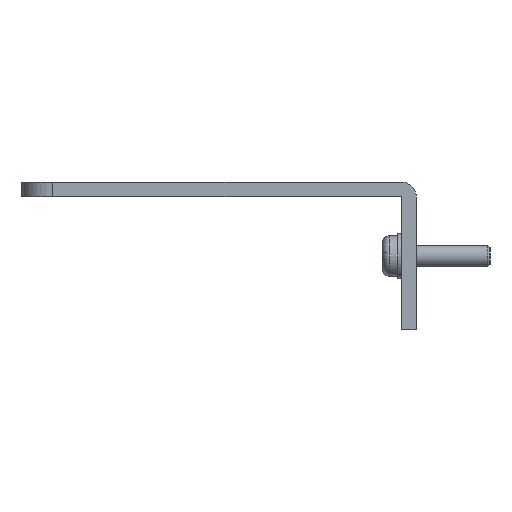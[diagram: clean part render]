
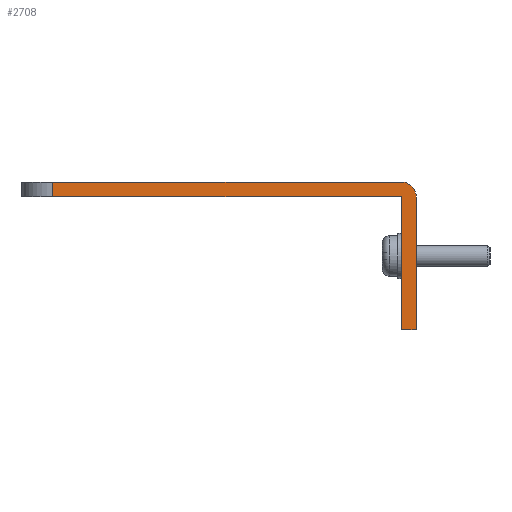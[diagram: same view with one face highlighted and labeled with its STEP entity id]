
A CAD part, left-side view. The second image highlights one B-rep face of the part: STEP entity #2708.
In plain terms, the highlighted planar face has unit normal (-1, 0, 0).
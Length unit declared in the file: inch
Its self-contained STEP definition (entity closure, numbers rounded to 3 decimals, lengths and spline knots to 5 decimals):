
#62=LINE($,#3853,#408);
#64=LINE($,#3859,#410);
#65=LINE($,#3863,#411);
#66=LINE($,#3865,#412);
#67=LINE($,#3867,#413);
#68=LINE($,#3870,#414);
#408=VECTOR($,#3105,0.06);
#410=VECTOR($,#3111,1.414);
#411=VECTOR($,#3114,0.539);
#412=VECTOR($,#3115,0.06);
#413=VECTOR($,#3116,0.539);
#414=VECTOR($,#3119,1.414);
#821=FACE_OUTER_BOUND($,#964,.T.);
#964=EDGE_LOOP($,(#1902,#1903,#1904,#1905,#1906,#1907,#1908,#1909));
#1130=CIRCLE($,#2865,0.001);
#1131=CIRCLE($,#2866,0.061);
#1184=VERTEX_POINT($,#3850);
#1185=VERTEX_POINT($,#3852);
#1187=VERTEX_POINT($,#3858);
#1188=VERTEX_POINT($,#3860);
#1189=VERTEX_POINT($,#3862);
#1190=VERTEX_POINT($,#3864);
#1191=VERTEX_POINT($,#3866);
#1192=VERTEX_POINT($,#3868);
#1459=EDGE_CURVE($,#1184,#1185,#62,.T.);
#1462=EDGE_CURVE($,#1184,#1187,#64,.T.);
#1463=EDGE_CURVE($,#1187,#1188,#1130,.T.);
#1464=EDGE_CURVE($,#1188,#1189,#65,.T.);
#1465=EDGE_CURVE($,#1190,#1189,#66,.T.);
#1466=EDGE_CURVE($,#1191,#1190,#67,.T.);
#1467=EDGE_CURVE($,#1192,#1191,#1131,.T.);
#1468=EDGE_CURVE($,#1192,#1185,#68,.T.);
#1902=ORIENTED_EDGE($,*,*,#1459,.F.);
#1903=ORIENTED_EDGE($,*,*,#1462,.T.);
#1904=ORIENTED_EDGE($,*,*,#1463,.T.);
#1905=ORIENTED_EDGE($,*,*,#1464,.T.);
#1906=ORIENTED_EDGE($,*,*,#1465,.F.);
#1907=ORIENTED_EDGE($,*,*,#1466,.F.);
#1908=ORIENTED_EDGE($,*,*,#1467,.F.);
#1909=ORIENTED_EDGE($,*,*,#1468,.T.);
#2578=PLANE($,#2864);
#2708=ADVANCED_FACE($,(#821),#2578,.T.);
#2864=AXIS2_PLACEMENT_3D($,#3857,#3109,#3110);
#2865=AXIS2_PLACEMENT_3D($,#3861,#3112,#3113);
#2866=AXIS2_PLACEMENT_3D($,#3869,#3117,#3118);
#3105=DIRECTION($,(0.,0.,1.));
#3109=DIRECTION('center_axis',(-1.,0.,0.));
#3110=DIRECTION('ref_axis',(0.,0.,1.));
#3111=DIRECTION($,(0.,-1.,0.));
#3112=DIRECTION('center_axis',(1.,0.,0.));
#3113=DIRECTION('ref_axis',(0.,0.,1.));
#3114=DIRECTION($,(0.,0.,-1.));
#3115=DIRECTION($,(0.,1.,0.));
#3116=DIRECTION($,(0.,0.,-1.));
#3117=DIRECTION('center_axis',(1.,0.,0.));
#3118=DIRECTION('ref_axis',(0.,0.,1.));
#3119=DIRECTION($,(0.,1.,0.));
#3850=CARTESIAN_POINT('',(0.,1.475,-0.06));
#3852=CARTESIAN_POINT('',(0.,1.475,0.));
#3853=CARTESIAN_POINT($,(0.,1.475,0.));
#3857=CARTESIAN_POINT('Origin',(0.,1.6,0.));
#3858=CARTESIAN_POINT('',(0.,0.061,-0.06));
#3859=CARTESIAN_POINT($,(0.,0.,-0.06));
#3860=CARTESIAN_POINT('',(0.,0.06,-0.061));
#3861=CARTESIAN_POINT('Origin',(0.,0.061,-0.061));
#3862=CARTESIAN_POINT('',(0.,0.06,-0.6));
#3863=CARTESIAN_POINT($,(0.,0.06,0.));
#3864=CARTESIAN_POINT('',(0.,0.,-0.6));
#3865=CARTESIAN_POINT($,(0.,0.,-0.6));
#3866=CARTESIAN_POINT('',(0.,0.,-0.061));
#3867=CARTESIAN_POINT($,(0.,0.,0.));
#3868=CARTESIAN_POINT('',(0.,0.061,0.));
#3869=CARTESIAN_POINT('Origin',(0.,0.061,-0.061));
#3870=CARTESIAN_POINT($,(0.,0.,0.));
